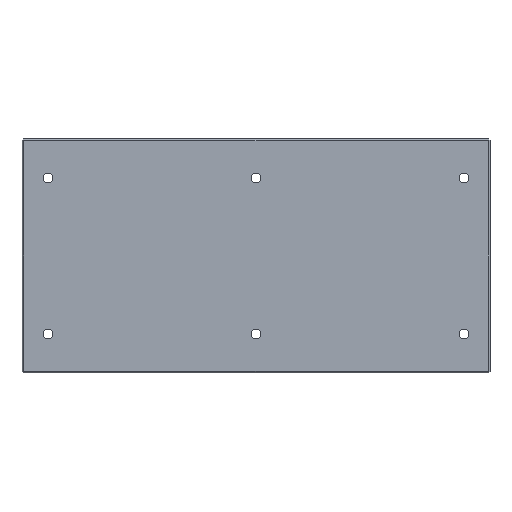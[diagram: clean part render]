
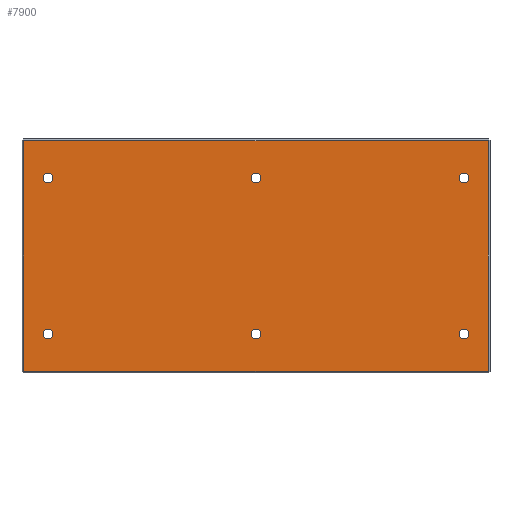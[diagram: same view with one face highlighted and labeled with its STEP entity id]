
A CAD part, front view. The second image highlights one B-rep face of the part: STEP entity #7900.
In plain terms, the highlighted planar face has unit normal (0, -1, 0).
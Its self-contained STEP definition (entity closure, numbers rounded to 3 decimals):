
#1=CARTESIAN_POINT('',(400.,-30.,150.));
#2=DIRECTION('',(0.,1.,0.));
#3=DIRECTION('',(1.,0.,0.));
#4=AXIS2_PLACEMENT_3D('',#1,#2,#3);
#6=CARTESIAN_POINT('',(400.,-30.,150.));
#7=DIRECTION('',(0.,1.,0.));
#8=DIRECTION('',(-1.,0.,0.));
#9=AXIS2_PLACEMENT_3D('',#6,#7,#8);
#11=CARTESIAN_POINT('',(0.,-30.,150.));
#12=DIRECTION('',(0.,1.,0.));
#13=DIRECTION('',(1.,0.,0.));
#14=AXIS2_PLACEMENT_3D('',#11,#12,#13);
#16=CARTESIAN_POINT('',(0.,-30.,150.));
#17=DIRECTION('',(0.,1.,0.));
#18=DIRECTION('',(-1.,0.,0.));
#19=AXIS2_PLACEMENT_3D('',#16,#17,#18);
#21=CARTESIAN_POINT('',(-400.,-30.,150.));
#22=DIRECTION('',(0.,1.,0.));
#23=DIRECTION('',(1.,0.,0.));
#24=AXIS2_PLACEMENT_3D('',#21,#22,#23);
#26=CARTESIAN_POINT('',(-400.,-30.,150.));
#27=DIRECTION('',(0.,1.,0.));
#28=DIRECTION('',(-1.,0.,0.));
#29=AXIS2_PLACEMENT_3D('',#26,#27,#28);
#31=CARTESIAN_POINT('',(400.,-30.,-150.));
#32=DIRECTION('',(0.,-1.,0.));
#33=DIRECTION('',(1.,0.,0.));
#34=AXIS2_PLACEMENT_3D('',#31,#32,#33);
#36=CARTESIAN_POINT('',(400.,-30.,-150.));
#37=DIRECTION('',(0.,-1.,0.));
#38=DIRECTION('',(-1.,0.,0.));
#39=AXIS2_PLACEMENT_3D('',#36,#37,#38);
#41=CARTESIAN_POINT('',(0.,-30.,-150.));
#42=DIRECTION('',(0.,-1.,0.));
#43=DIRECTION('',(1.,0.,0.));
#44=AXIS2_PLACEMENT_3D('',#41,#42,#43);
#46=CARTESIAN_POINT('',(0.,-30.,-150.));
#47=DIRECTION('',(0.,-1.,0.));
#48=DIRECTION('',(-1.,0.,0.));
#49=AXIS2_PLACEMENT_3D('',#46,#47,#48);
#51=CARTESIAN_POINT('',(-400.,-30.,-150.));
#52=DIRECTION('',(0.,-1.,0.));
#53=DIRECTION('',(1.,0.,0.));
#54=AXIS2_PLACEMENT_3D('',#51,#52,#53);
#56=CARTESIAN_POINT('',(-400.,-30.,-150.));
#57=DIRECTION('',(0.,-1.,0.));
#58=DIRECTION('',(-1.,0.,0.));
#59=AXIS2_PLACEMENT_3D('',#56,#57,#58);
#61=DIRECTION('',(-0.707,0.,-0.707));
#62=VECTOR('',#61,0.343);
#63=CARTESIAN_POINT('',(-446.757,-30.,222.));
#64=LINE('',#63,#62);
#65=DIRECTION('',(-1.,0.,0.));
#66=VECTOR('',#65,893.515);
#67=CARTESIAN_POINT('',(446.757,-30.,222.));
#68=LINE('',#67,#66);
#69=DIRECTION('',(-0.707,0.,0.707));
#70=VECTOR('',#69,0.343);
#71=CARTESIAN_POINT('',(447.,-30.,221.757));
#72=LINE('',#71,#70);
#73=DIRECTION('',(0.,0.,1.));
#74=VECTOR('',#73,443.515);
#75=CARTESIAN_POINT('',(447.,-30.,-221.757));
#76=LINE('',#75,#74);
#77=DIRECTION('',(0.707,0.,0.707));
#78=VECTOR('',#77,0.343);
#79=CARTESIAN_POINT('',(446.757,-30.,-222.));
#80=LINE('',#79,#78);
#81=DIRECTION('',(1.,0.,0.));
#82=VECTOR('',#81,893.515);
#83=CARTESIAN_POINT('',(-446.757,-30.,-222.));
#84=LINE('',#83,#82);
#85=DIRECTION('',(0.707,0.,-0.707));
#86=VECTOR('',#85,0.343);
#87=CARTESIAN_POINT('',(-447.,-30.,-221.757));
#88=LINE('',#87,#86);
#89=DIRECTION('',(0.,0.,-1.));
#90=VECTOR('',#89,443.515);
#91=CARTESIAN_POINT('',(-447.,-30.,221.757));
#92=LINE('',#91,#90);
#7325=CARTESIAN_POINT('',(409.,-30.,150.));
#7326=CARTESIAN_POINT('',(391.,-30.,150.));
#7327=VERTEX_POINT('',#7325);
#7328=VERTEX_POINT('',#7326);
#7337=CARTESIAN_POINT('',(9.,-30.,150.));
#7338=CARTESIAN_POINT('',(-9.,-30.,150.));
#7339=VERTEX_POINT('',#7337);
#7340=VERTEX_POINT('',#7338);
#7385=CARTESIAN_POINT('',(-391.,-30.,150.));
#7386=CARTESIAN_POINT('',(-409.,-30.,150.));
#7387=VERTEX_POINT('',#7385);
#7388=VERTEX_POINT('',#7386);
#7437=CARTESIAN_POINT('',(409.,-30.,-150.));
#7438=VERTEX_POINT('',#7437);
#7439=CARTESIAN_POINT('',(391.,-30.,-150.));
#7440=VERTEX_POINT('',#7439);
#7449=CARTESIAN_POINT('',(9.,-30.,-150.));
#7450=VERTEX_POINT('',#7449);
#7453=CARTESIAN_POINT('',(-9.,-30.,-150.));
#7454=VERTEX_POINT('',#7453);
#7465=CARTESIAN_POINT('',(-391.,-30.,-150.));
#7466=VERTEX_POINT('',#7465);
#7469=CARTESIAN_POINT('',(-409.,-30.,-150.));
#7470=VERTEX_POINT('',#7469);
#7701=CARTESIAN_POINT('',(-446.757,-30.,222.));
#7702=CARTESIAN_POINT('',(-447.,-30.,221.757));
#7703=VERTEX_POINT('',#7701);
#7704=VERTEX_POINT('',#7702);
#7707=CARTESIAN_POINT('',(-447.,-30.,-221.757));
#7708=VERTEX_POINT('',#7707);
#7709=CARTESIAN_POINT('',(-446.757,-30.,-222.));
#7710=VERTEX_POINT('',#7709);
#7715=CARTESIAN_POINT('',(446.757,-30.,-222.));
#7716=VERTEX_POINT('',#7715);
#7717=CARTESIAN_POINT('',(447.,-30.,-221.757));
#7718=VERTEX_POINT('',#7717);
#7723=CARTESIAN_POINT('',(447.,-30.,221.757));
#7724=VERTEX_POINT('',#7723);
#7725=CARTESIAN_POINT('',(446.757,-30.,222.));
#7726=VERTEX_POINT('',#7725);
#7841=CARTESIAN_POINT('',(0.,-30.,0.));
#7842=DIRECTION('',(0.,1.,0.));
#7843=DIRECTION('',(1.,0.,0.));
#7844=AXIS2_PLACEMENT_3D('',#7841,#7842,#7843);
#7845=PLANE('',#7844);
#7847=ORIENTED_EDGE('',*,*,#7846,.F.);
#7849=ORIENTED_EDGE('',*,*,#7848,.F.);
#7851=ORIENTED_EDGE('',*,*,#7850,.F.);
#7853=ORIENTED_EDGE('',*,*,#7852,.F.);
#7855=ORIENTED_EDGE('',*,*,#7854,.F.);
#7857=ORIENTED_EDGE('',*,*,#7856,.F.);
#7859=ORIENTED_EDGE('',*,*,#7858,.F.);
#7861=ORIENTED_EDGE('',*,*,#7860,.F.);
#7862=EDGE_LOOP('',(#7847,#7849,#7851,#7853,#7855,#7857,#7859,#7861));
#7863=FACE_OUTER_BOUND('',#7862,.F.);
#7865=ORIENTED_EDGE('',*,*,#7864,.F.);
#7867=ORIENTED_EDGE('',*,*,#7866,.F.);
#7868=EDGE_LOOP('',(#7865,#7867));
#7869=FACE_BOUND('',#7868,.F.);
#7871=ORIENTED_EDGE('',*,*,#7870,.F.);
#7873=ORIENTED_EDGE('',*,*,#7872,.F.);
#7874=EDGE_LOOP('',(#7871,#7873));
#7875=FACE_BOUND('',#7874,.F.);
#7877=ORIENTED_EDGE('',*,*,#7876,.T.);
#7879=ORIENTED_EDGE('',*,*,#7878,.T.);
#7880=EDGE_LOOP('',(#7877,#7879));
#7881=FACE_BOUND('',#7880,.F.);
#7883=ORIENTED_EDGE('',*,*,#7882,.T.);
#7885=ORIENTED_EDGE('',*,*,#7884,.T.);
#7886=EDGE_LOOP('',(#7883,#7885));
#7887=FACE_BOUND('',#7886,.F.);
#7889=ORIENTED_EDGE('',*,*,#7888,.T.);
#7891=ORIENTED_EDGE('',*,*,#7890,.T.);
#7892=EDGE_LOOP('',(#7889,#7891));
#7893=FACE_BOUND('',#7892,.F.);
#7895=ORIENTED_EDGE('',*,*,#7894,.F.);
#7897=ORIENTED_EDGE('',*,*,#7896,.F.);
#7898=EDGE_LOOP('',(#7895,#7897));
#7899=FACE_BOUND('',#7898,.F.);
#7900=ADVANCED_FACE('',(#7863,#7869,#7875,#7881,#7887,#7893,#7899),#7845,.F.);
#5=CIRCLE('',#4,9.);
#10=CIRCLE('',#9,9.);
#15=CIRCLE('',#14,9.);
#20=CIRCLE('',#19,9.);
#25=CIRCLE('',#24,9.);
#30=CIRCLE('',#29,9.);
#35=CIRCLE('',#34,9.);
#40=CIRCLE('',#39,9.);
#45=CIRCLE('',#44,9.);
#50=CIRCLE('',#49,9.);
#55=CIRCLE('',#54,9.);
#60=CIRCLE('',#59,9.);
#7846=EDGE_CURVE('',#7703,#7704,#64,.T.);
#7848=EDGE_CURVE('',#7726,#7703,#68,.T.);
#7850=EDGE_CURVE('',#7724,#7726,#72,.T.);
#7852=EDGE_CURVE('',#7718,#7724,#76,.T.);
#7854=EDGE_CURVE('',#7716,#7718,#80,.T.);
#7856=EDGE_CURVE('',#7710,#7716,#84,.T.);
#7858=EDGE_CURVE('',#7708,#7710,#88,.T.);
#7860=EDGE_CURVE('',#7704,#7708,#92,.T.);
#7864=EDGE_CURVE('',#7339,#7340,#15,.T.);
#7866=EDGE_CURVE('',#7340,#7339,#20,.T.);
#7870=EDGE_CURVE('',#7387,#7388,#25,.T.);
#7872=EDGE_CURVE('',#7388,#7387,#30,.T.);
#7876=EDGE_CURVE('',#7438,#7440,#35,.T.);
#7878=EDGE_CURVE('',#7440,#7438,#40,.T.);
#7882=EDGE_CURVE('',#7450,#7454,#45,.T.);
#7884=EDGE_CURVE('',#7454,#7450,#50,.T.);
#7888=EDGE_CURVE('',#7466,#7470,#55,.T.);
#7890=EDGE_CURVE('',#7470,#7466,#60,.T.);
#7894=EDGE_CURVE('',#7327,#7328,#5,.T.);
#7896=EDGE_CURVE('',#7328,#7327,#10,.T.);
